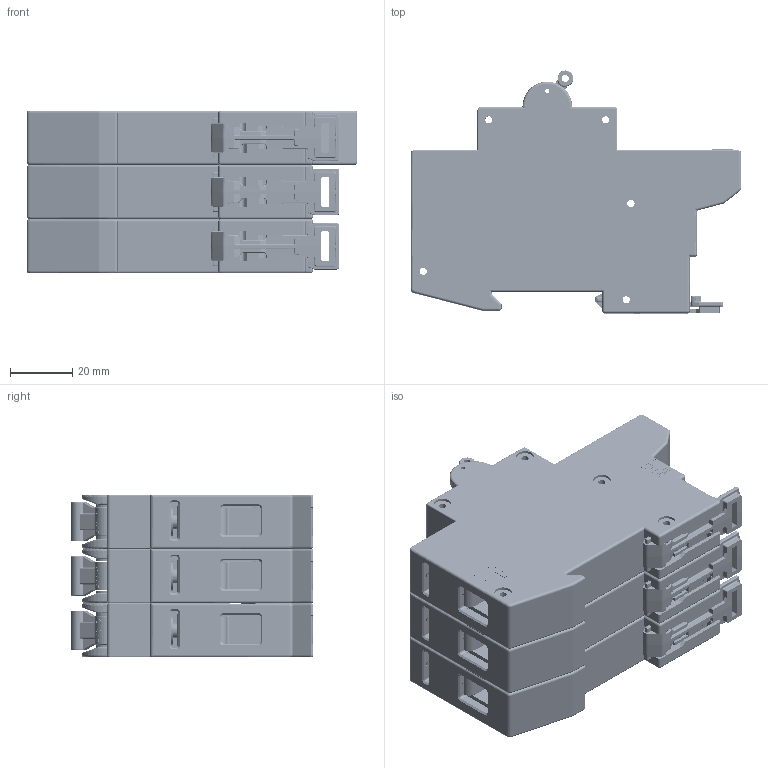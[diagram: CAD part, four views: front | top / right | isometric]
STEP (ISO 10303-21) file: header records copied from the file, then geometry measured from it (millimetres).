
FILE_DESCRIPTION((''),'2;1');
FILE_NAME('C:\Niriawan\Project\3D tekeningen\2012-3p_wrp\2012-3p_wrp solid.stp','2011-02-18T11:35:56',('oey'),(''),'Autodesk Inventor 2011','Autodesk Inventor 2011','');
FILE_SCHEMA(('AUTOMOTIVE_DESIGN { 1 0 10303 214 1 1 1 1 }'));
Length unit declared in the file: millimetre
Products named in the file (1): 2012-3p_wrp solid
Bounding box: 106.38 x 78.17 x 52.43 mm (x, y, z)
Surface area: 109138.4 mm2 (no closed solid volume)
Topology: 0 solids, 156 shells, 5892 faces, 19387 edges, 13356 vertices
Faces by surface type: plane 3442, cylinder 1673, bspline 334, torus 245, cone 111, sphere 87
Full cylindrical faces by diameter (mm): 1.397 x6, 1.651 x3, 1.676 x3, 1.981 x2, 2.235 x3, 2.337 x24, 2.362 x6, 2.388 x3, 2.413 x3, 2.769 x3, 3.175 x6, 3.2 x3, 3.81 x3, 4.42 x6, 4.826 x3, 5.334 x3, 5.588 x30, 6.198 x3, 9.473 x3
Entity records: 237751 total; most frequent: CARTESIAN_POINT 65490, DIRECTION 33527, ORIENTED_EDGE 33044, EDGE_CURVE 19138, VECTOR 13841, LINE 13841, VERTEX_POINT 13319, AXIS2_PLACEMENT_3D 9843
